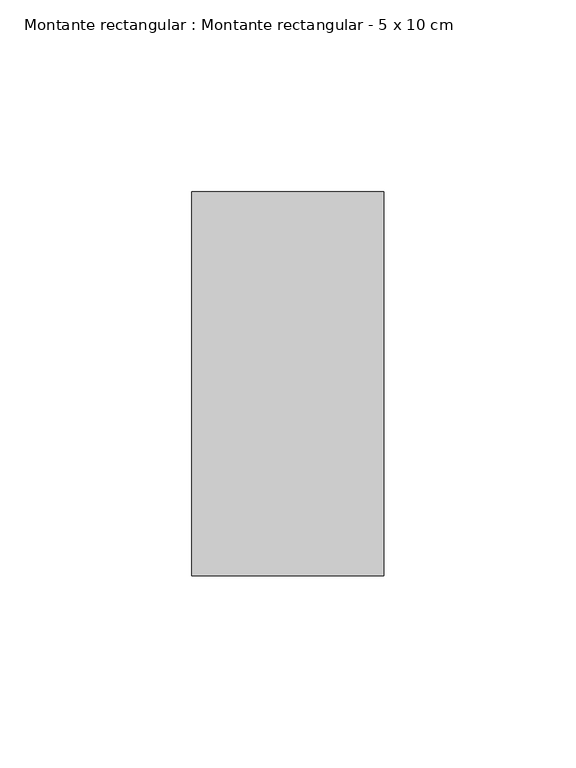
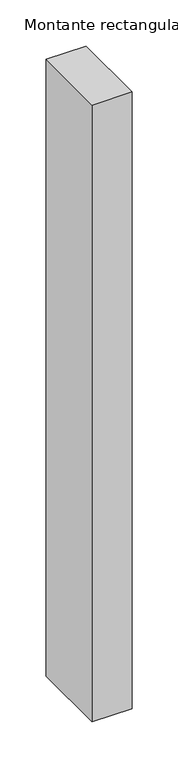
"""IFC4 building model written with IfcOpenShell, lengths in millimetres: member geometry, Montante rectangular : Montante rectangular - 5 x 10 cm."""

from ifc_helpers import new_model, si_unit, frame, origin, place, context, project, spatial, polyline, outline, extrude, source, transform, mapped, element, save


def montante_rectangular_montante_rectangular_5_x_10_cm_666b41a7(model_context):
    return source(origin(), model_context, "Body", "SweptSolid", [
        extrude(outline(polyline([(0.0, 50.0), (0.0, -50.0), (-50.0, -50.0), (-50.0, 50.0), (0.0, 50.0)])), frame((0.0, 0.0, -816.6666667), z_axis=(0.0, 0.0, 1.0), x_axis=(1.0, 0.0, 0.0)), (0.0, 0.0, 1.0), 816.6666667),
    ])


if __name__ == "__main__":
    model = new_model("IFC4")
    model_context = context("Model", 3, world=origin())
    ifc_project = project(units=[si_unit("LENGTHUNIT", "METRE", prefix="MILLI")], contexts=[model_context])
    site = spatial("IfcSite", under=ifc_project)
    building = spatial("IfcBuilding", under=site)
    placement = place(None, origin())
    montante_rectangular_montante_rectangular_5_x_10_cm_shape = montante_rectangular_montante_rectangular_5_x_10_cm_666b41a7(model_context)
    element("IfcMember", 1, ObjectType="Montante rectangular : Montante rectangular - 5 x 10 cm", at=placement, inside=building, context=model_context, shape_type="MappedRepresentation", body=[
        mapped(montante_rectangular_montante_rectangular_5_x_10_cm_shape, transform((0.0, 0.0, 0.0), x_axis=(1.0, 0.0, 0.0), y_axis=(0.0, 1.0, 0.0), z_axis=(0.0, 0.0, 1.0))),
    ])
    save(model, "model.ifc")
